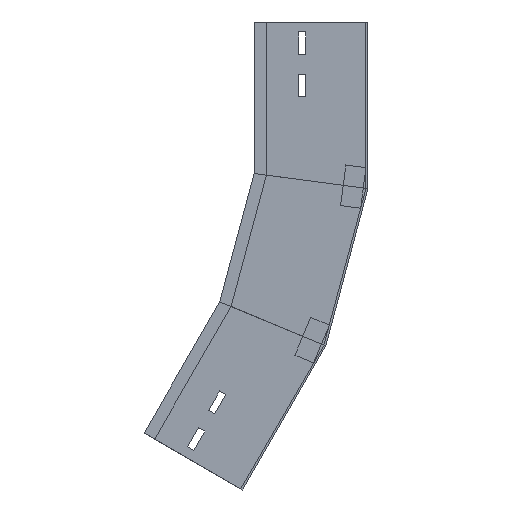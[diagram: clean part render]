
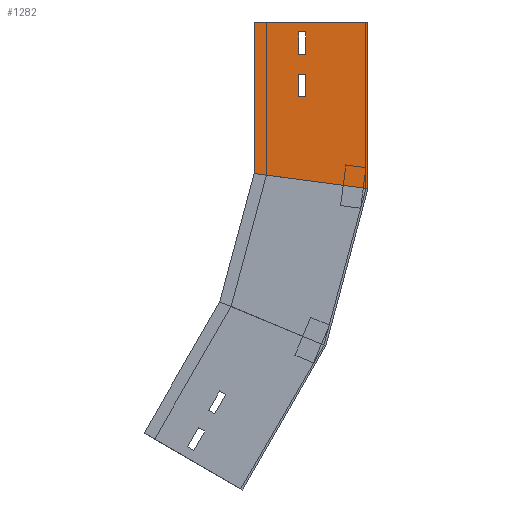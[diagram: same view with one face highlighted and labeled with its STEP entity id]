
A CAD part, left-side view. The second image highlights one B-rep face of the part: STEP entity #1282.
In plain terms, the highlighted planar face has unit normal (-1, 0, 0) as drawn and (1, 0, 0) by its records, which use the part's own axes.
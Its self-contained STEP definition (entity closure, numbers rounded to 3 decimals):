
#53 = VECTOR ( 'NONE', #728, 1000. ) ;
#61 = CARTESIAN_POINT ( 'NONE',  ( 0., 123.944, -462.565 ) ) ;
#68 = ORIENTED_EDGE ( 'NONE', *, *, #1375, .T. ) ;
#77 = CARTESIAN_POINT ( 'NONE',  ( 0., 178.349, -419.798 ) ) ;
#79 = CARTESIAN_POINT ( 'NONE',  ( 0., 146.477, -276.594 ) ) ;
#80 = LINE ( 'NONE', #321, #1458 ) ;
#84 = LINE ( 'NONE', #77, #510 ) ;
#96 = CARTESIAN_POINT ( 'NONE',  ( 0., 146.514, -364.658 ) ) ;
#104 = ORIENTED_EDGE ( 'NONE', *, *, #686, .F. ) ;
#108 = DIRECTION ( 'NONE',  ( 0., 0.5, -0.866 ) ) ;
#115 = VECTOR ( 'NONE', #1484, 1000. ) ;
#129 = DIRECTION ( 'NONE',  ( 0., -0.5, 0.866 ) ) ;
#148 = CARTESIAN_POINT ( 'NONE',  ( 0., 41.644, -320.017 ) ) ;
#152 = DIRECTION ( 'NONE',  ( 0., 0.5, -0.866 ) ) ;
#159 = VECTOR ( 'NONE', #1024, 1000. ) ;
#161 = VERTEX_POINT ( 'NONE', #983 ) ;
#181 = VERTEX_POINT ( 'NONE', #328 ) ;
#188 = CARTESIAN_POINT ( 'NONE',  ( 0., 146.514, -364.658 ) ) ;
#206 = VERTEX_POINT ( 'NONE', #230 ) ;
#214 = EDGE_CURVE ( 'NONE', #1414, #794, #681, .T. ) ;
#216 = VECTOR ( 'NONE', #1356, 1000. ) ;
#230 = CARTESIAN_POINT ( 'NONE',  ( 0., 151.452, -387.211 ) ) ;
#239 = CARTESIAN_POINT ( 'NONE',  ( 0., 172.287, -423.298 ) ) ;
#250 = EDGE_CURVE ( 'NONE', #803, #595, #640, .T. ) ;
#253 = CARTESIAN_POINT ( 'NONE',  ( 0., 221.372, -406.315 ) ) ;
#266 = VERTEX_POINT ( 'NONE', #79 ) ;
#302 = CARTESIAN_POINT ( 'NONE',  ( 0., 123.944, -462.565 ) ) ;
#321 = CARTESIAN_POINT ( 'NONE',  ( 0., 139.072, -263.767 ) ) ;
#324 = ORIENTED_EDGE ( 'NONE', *, *, #377, .F. ) ;
#328 = CARTESIAN_POINT ( 'NONE',  ( 0., 157.514, -383.711 ) ) ;
#358 = VECTOR ( 'NONE', #933, 1000. ) ;
#361 = CARTESIAN_POINT ( 'NONE',  ( 0., 172.287, -423.298 ) ) ;
#377 = EDGE_CURVE ( 'NONE', #181, #828, #1207, .T. ) ;
#412 = ORIENTED_EDGE ( 'NONE', *, *, #623, .F. ) ;
#422 = CARTESIAN_POINT ( 'NONE',  ( 0., 157.514, -383.711 ) ) ;
#436 = EDGE_CURVE ( 'NONE', #794, #571, #1486, .T. ) ;
#441 = ORIENTED_EDGE ( 'NONE', *, *, #908, .T. ) ;
#456 = CARTESIAN_POINT ( 'NONE',  ( 0., 178.349, -419.798 ) ) ;
#468 = VERTEX_POINT ( 'NONE', #664 ) ;
#510 = VECTOR ( 'NONE', #129, 1000. ) ;
#514 = VECTOR ( 'NONE', #688, 1000. ) ;
#526 = FACE_BOUND ( 'NONE', #1365, .T. ) ;
#560 = LINE ( 'NONE', #1264, #159 ) ;
#564 = DIRECTION ( 'NONE',  ( -1., 0., 0. ) ) ;
#571 = VERTEX_POINT ( 'NONE', #239 ) ;
#581 = VERTEX_POINT ( 'NONE', #707 ) ;
#584 = ORIENTED_EDGE ( 'NONE', *, *, #250, .T. ) ;
#595 = VERTEX_POINT ( 'NONE', #253 ) ;
#599 = ORIENTED_EDGE ( 'NONE', *, *, #214, .F. ) ;
#604 = DIRECTION ( 'NONE',  ( 0., 0., 1. ) ) ;
#610 = CARTESIAN_POINT ( 'NONE',  ( 0., 157.514, -383.711 ) ) ;
#623 = EDGE_CURVE ( 'NONE', #828, #468, #768, .T. ) ;
#640 = LINE ( 'NONE', #61, #53 ) ;
#642 = EDGE_CURVE ( 'NONE', #571, #581, #1370, .T. ) ;
#653 = PLANE ( 'NONE',  #1066 ) ;
#654 = EDGE_LOOP ( 'NONE', ( #441, #68, #584, #1304 ) ) ;
#664 = CARTESIAN_POINT ( 'NONE',  ( 0., 140.452, -368.158 ) ) ;
#681 = LINE ( 'NONE', #1466, #514 ) ;
#686 = EDGE_CURVE ( 'NONE', #468, #206, #560, .T. ) ;
#688 = DIRECTION ( 'NONE',  ( 0., -0.866, -0.5 ) ) ;
#707 = CARTESIAN_POINT ( 'NONE',  ( 0., 178.349, -419.798 ) ) ;
#720 = DIRECTION ( 'NONE',  ( 0., 0.866, 0.5 ) ) ;
#728 = DIRECTION ( 'NONE',  ( 0., 0.866, 0.5 ) ) ;
#768 = LINE ( 'NONE', #96, #216 ) ;
#789 = EDGE_LOOP ( 'NONE', ( #1165, #1383, #1095, #599 ) ) ;
#794 = VERTEX_POINT ( 'NONE', #1203 ) ;
#803 = VERTEX_POINT ( 'NONE', #302 ) ;
#821 = LINE ( 'NONE', #610, #1295 ) ;
#828 = VERTEX_POINT ( 'NONE', #188 ) ;
#859 = CARTESIAN_POINT ( 'NONE',  ( 0., 167.349, -400.745 ) ) ;
#863 = DIRECTION ( 'NONE',  ( 0., -0.5, 0.866 ) ) ;
#872 = FACE_OUTER_BOUND ( 'NONE', #654, .T. ) ;
#908 = EDGE_CURVE ( 'NONE', #266, #161, #1390, .T. ) ;
#933 = DIRECTION ( 'NONE',  ( 0., -0.924, -0.383 ) ) ;
#934 = LINE ( 'NONE', #148, #1093 ) ;
#983 = CARTESIAN_POINT ( 'NONE',  ( 0., 41.644, -320.017 ) ) ;
#990 = EDGE_CURVE ( 'NONE', #266, #595, #80, .T. ) ;
#1006 = DIRECTION ( 'NONE',  ( 0., 0.5, -0.866 ) ) ;
#1024 = DIRECTION ( 'NONE',  ( 0., 0.5, -0.866 ) ) ;
#1056 = CARTESIAN_POINT ( 'NONE',  ( 0., 61.047, -311.98 ) ) ;
#1066 = AXIS2_PLACEMENT_3D ( 'NONE', #1346, #564, #604 ) ;
#1093 = VECTOR ( 'NONE', #152, 1000. ) ;
#1094 = FACE_BOUND ( 'NONE', #789, .T. ) ;
#1095 = ORIENTED_EDGE ( 'NONE', *, *, #436, .F. ) ;
#1104 = EDGE_CURVE ( 'NONE', #581, #1414, #84, .T. ) ;
#1165 = ORIENTED_EDGE ( 'NONE', *, *, #1104, .F. ) ;
#1176 = VECTOR ( 'NONE', #863, 1000. ) ;
#1203 = CARTESIAN_POINT ( 'NONE',  ( 0., 161.287, -404.245 ) ) ;
#1207 = LINE ( 'NONE', #422, #1176 ) ;
#1264 = CARTESIAN_POINT ( 'NONE',  ( 0., 151.452, -387.211 ) ) ;
#1282 = ADVANCED_FACE ( 'NONE', ( #1094, #526, #872 ), #653, .F. ) ;
#1295 = VECTOR ( 'NONE', #720, 1000. ) ;
#1304 = ORIENTED_EDGE ( 'NONE', *, *, #990, .F. ) ;
#1346 = CARTESIAN_POINT ( 'NONE',  ( 0., 41.644, -320.017 ) ) ;
#1356 = DIRECTION ( 'NONE',  ( 0., -0.866, -0.5 ) ) ;
#1365 = EDGE_LOOP ( 'NONE', ( #324, #1474, #104, #412 ) ) ;
#1370 = LINE ( 'NONE', #456, #115 ) ;
#1375 = EDGE_CURVE ( 'NONE', #161, #803, #934, .T. ) ;
#1383 = ORIENTED_EDGE ( 'NONE', *, *, #642, .F. ) ;
#1390 = LINE ( 'NONE', #1056, #358 ) ;
#1394 = EDGE_CURVE ( 'NONE', #206, #181, #821, .T. ) ;
#1414 = VERTEX_POINT ( 'NONE', #859 ) ;
#1458 = VECTOR ( 'NONE', #1006, 1000. ) ;
#1466 = CARTESIAN_POINT ( 'NONE',  ( 0., 167.349, -400.745 ) ) ;
#1471 = VECTOR ( 'NONE', #108, 1000. ) ;
#1474 = ORIENTED_EDGE ( 'NONE', *, *, #1394, .F. ) ;
#1484 = DIRECTION ( 'NONE',  ( 0., 0.866, 0.5 ) ) ;
#1486 = LINE ( 'NONE', #361, #1471 ) ;
